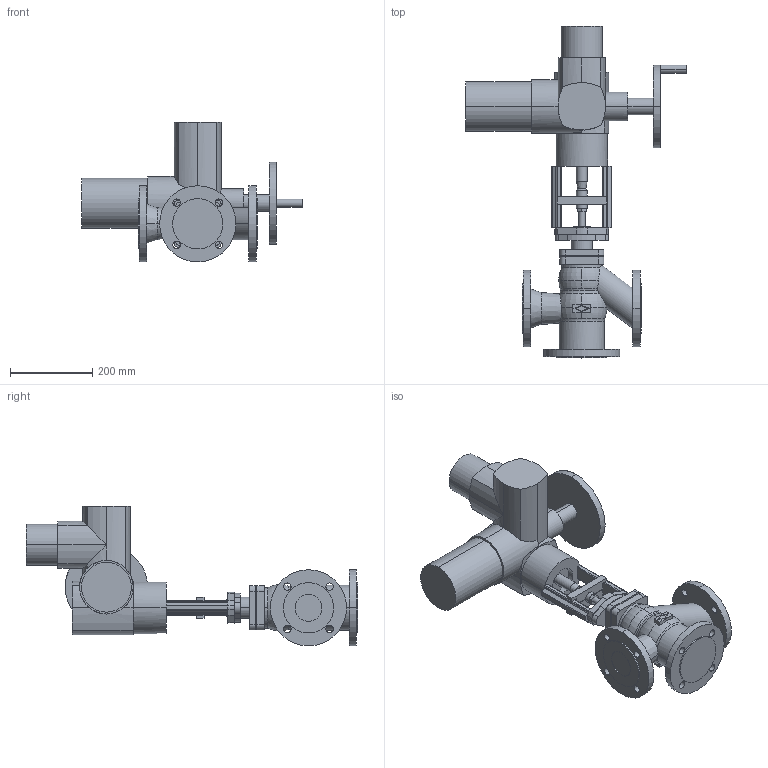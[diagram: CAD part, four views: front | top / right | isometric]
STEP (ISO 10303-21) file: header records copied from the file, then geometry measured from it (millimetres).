
FILE_DESCRIPTION(('OneSpaceDesigner STEP Export'),'2;1');
FILE_NAME('c000003159.stp','2007-01-24T10:32:39',(''),(''),'OneSpace Designer STEP processor for AP214 (Solid Model)','OneSpace Designer 14.00B 27-May-2006 (C) CoCreate Software GmbH','');
FILE_SCHEMA(('AUTOMOTIVE_DESIGN { 1 0 10303 214 1 1 1 1 }'));
Length unit declared in the file: millimetre
Products named in the file (2): 1; 2
Bounding box: 536 x 805.5 x 339.5 mm (x, y, z)
Volume: 15374196.9 mm3; surface area: 854773.5 mm2
Topology: 2 solids, 2 shells, 301 faces, 774 edges, 495 vertices
Faces by surface type: cylinder 144, plane 131, torus 18, cone 8
Entity records: 8687 total; most frequent: CARTESIAN_POINT 1919, ORIENTED_EDGE 1548, DIRECTION 1236, EDGE_CURVE 774, VERTEX_POINT 495, AXIS2_PLACEMENT_3D 424, VECTOR 388, LINE 388
